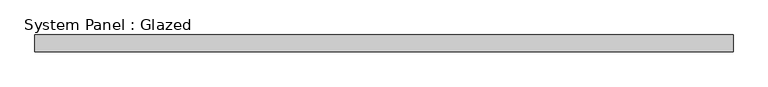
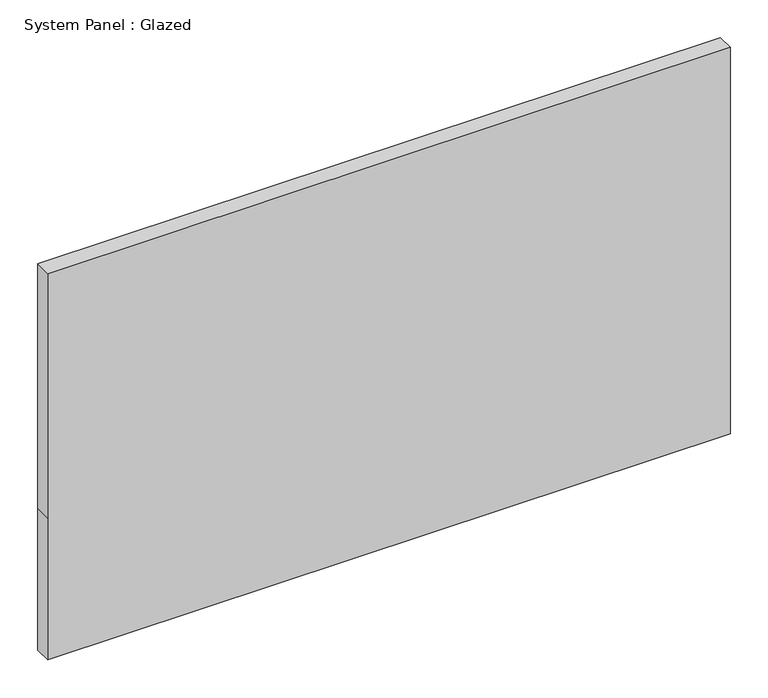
"""IFC4 building model written with IfcOpenShell, lengths in millimetres: plate geometry, System Panel : Glazed."""

from ifc_helpers import new_model, si_unit, frame, origin, place, context, project, spatial, polyline, outline, extrude, source, transform, mapped, element, save


def system_panel_glazed_a0f14529(model_context):
    return source(origin(), model_context, "Body", "SweptSolid", [
        extrude(outline(polyline([(0.0, -519.7928572), (0.0, 519.7928572), (228.6, 519.7928572), (622.3, 519.7928572), (622.3, -519.7928572), (228.6, -519.7928572), (0.0, -519.7928572)])), frame((0.0, 19.05, 0.0), z_axis=(0.0, 1.0, 0.0), x_axis=(0.0, 0.0, 1.0)), (0.0, 0.0, 1.0), 25.4),
    ])


if __name__ == "__main__":
    model = new_model("IFC4")
    model_context = context("Model", 3, world=origin())
    ifc_project = project(units=[si_unit("LENGTHUNIT", "METRE", prefix="MILLI")], contexts=[model_context])
    site = spatial("IfcSite", under=ifc_project)
    building = spatial("IfcBuilding", under=site)
    placement = place(None, origin())
    system_panel_glazed_shape = system_panel_glazed_a0f14529(model_context)
    element("IfcPlate", 1, ObjectType="System Panel : Glazed", at=placement, inside=building, context=model_context, shape_type="MappedRepresentation", body=[
        mapped(system_panel_glazed_shape, transform((0.0, 0.0, 0.0), x_axis=(1.0, 0.0, 0.0), y_axis=(0.0, 1.0, 0.0), z_axis=(0.0, 0.0, 1.0))),
    ])
    save(model, "model.ifc")
